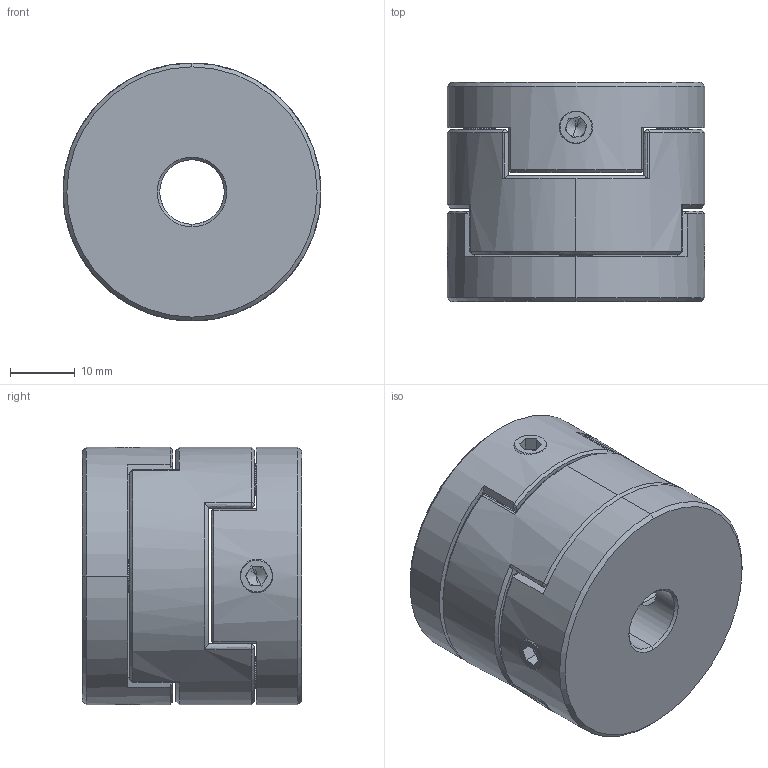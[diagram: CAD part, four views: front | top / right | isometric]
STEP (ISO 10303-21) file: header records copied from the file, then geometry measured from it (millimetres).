
FILE_DESCRIPTION (( 'STEP AP203' ), '1' );
FILE_NAME ('LZ-D-D40L35-10-10.STEP', '2021-10-30T04:44:10', ( '' ), ( '' ), 'SwSTEP 2.0', 'SolidWorks 2018', '' );
FILE_SCHEMA (( 'CONFIG_CONTROL_DESIGN' ));
Length unit declared in the file: millimetre
Products named in the file (1): LZ-D-D40L35-10-10
Bounding box: 40 x 34 x 40 mm (x, y, z)
Volume: 37038.6 mm3; surface area: 12532.7 mm2
Topology: 1 solids, 1 shells, 217 faces, 542 edges, 327 vertices
Faces by surface type: plane 88, bspline 55, cone 48, cylinder 26
Entity records: 7720 total; most frequent: CARTESIAN_POINT 2997, ORIENTED_EDGE 1068, DIRECTION 796, EDGE_CURVE 534, VERTEX_POINT 327, AXIS2_PLACEMENT_3D 289, EDGE_LOOP 243, LINE 218
